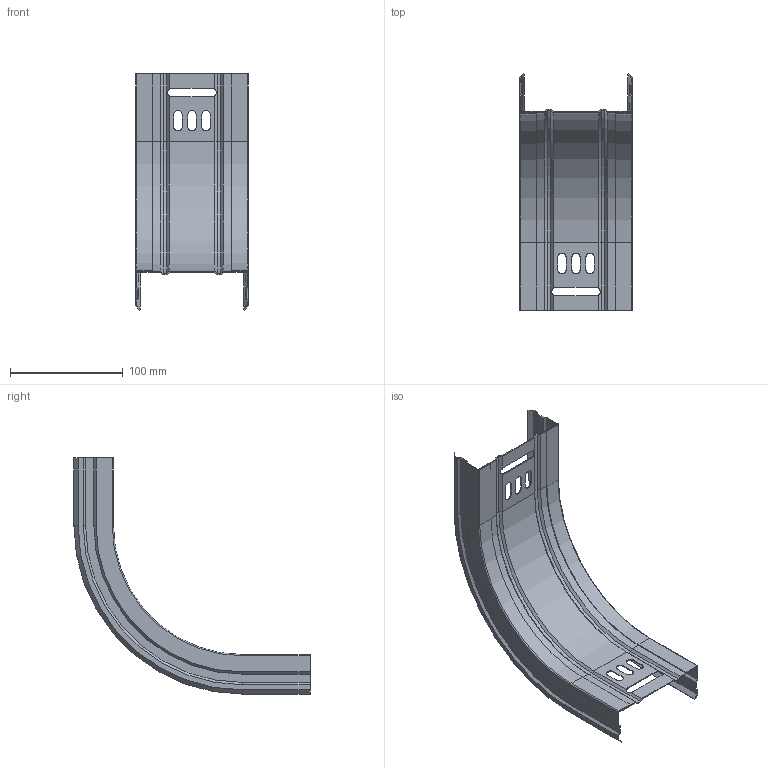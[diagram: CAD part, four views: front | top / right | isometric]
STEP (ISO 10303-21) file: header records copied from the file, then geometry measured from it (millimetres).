
FILE_DESCRIPTION (( 'STEP AP203' ), '1' );
FILE_NAME ('ERE_CONVEXA 100x35.step', '2023-07-27T18:48:39', ( '' ), ( '' ), 'SwSTEP 2.0', 'SolidWorks 2022', '' );
FILE_SCHEMA (( 'CONFIG_CONTROL_DESIGN' ));
Length unit declared in the file: millimetre
Products named in the file (3): ERE_BASE CX_100; ERE_CONVEXA 100x35; ERE_LATERAL CX_35
Assembly tree (3 placements, depth 2):
  ERE_CONVEXA 100x35
    ERE_BASE CX_100
    ERE_LATERAL CX_35  x2
Bounding box: 100 x 209.2 x 209.2 mm (x, y, z)
Volume: 49925.5 mm3; surface area: 127043.4 mm2
Topology: 3 solids, 3 shells, 192 faces, 498 edges, 308 vertices
Faces by surface type: plane 126, cylinder 40, cone 22, torus 4
Entity records: 4743 total; most frequent: CARTESIAN_POINT 802, ORIENTED_EDGE 760, DIRECTION 754, EDGE_CURVE 380, LINE 282, VECTOR 282, VERTEX_POINT 236, AXIS2_PLACEMENT_3D 236
